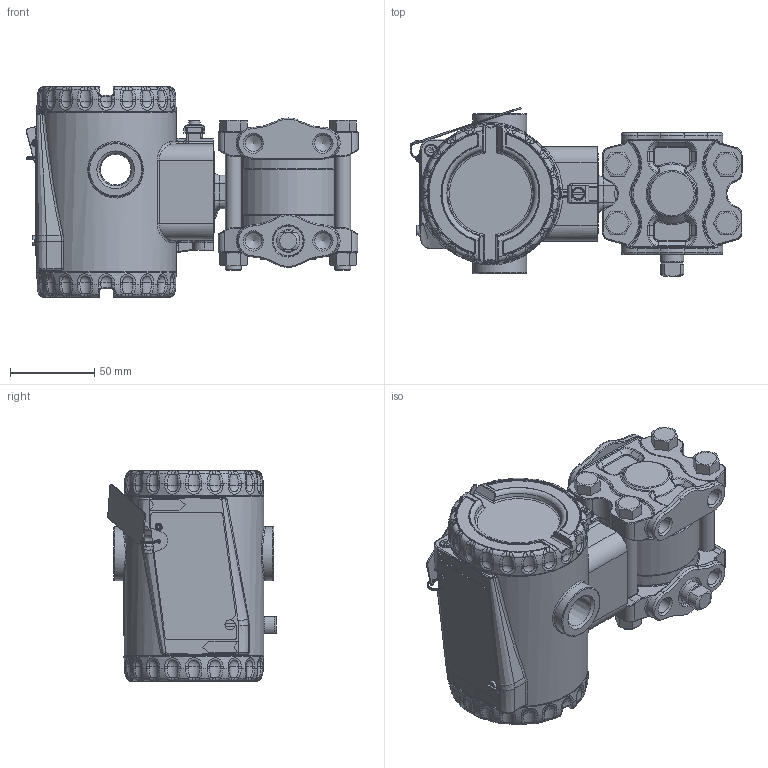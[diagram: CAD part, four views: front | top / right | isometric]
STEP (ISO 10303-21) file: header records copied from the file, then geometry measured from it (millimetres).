
FILE_DESCRIPTION(/* description */ (''),/* implementation_level */ '2;1');
FILE_NAME(/* name */ 'F:\Area\Desenvolvimento_2\Projects\Sensor\projetos\LD400-3d\dimensionais 3D clientes\LD400A5 1-4NPT sem purga.stp',/* time_stamp */ '2023-02-02T10:01:17-03:00',/* author */ ('inventor02'),/* organization */ (''),/* preprocessor_version */ 'ST-DEVELOPER v17',/* originating_system */ 'Autodesk Inventor 2019',/* authorisation */ '');
FILE_SCHEMA (('CONFIG_CONTROL_DESIGN'));
Products named in the file (29): LD400A5 1-4NPT sem purga; Carcaça 400 com tampas e plaqueta sem letras; 101-D-0845-05 carcaça LD400 sem letras; 101-B-3614-03-tampa 400 sem letras; Tampa visor 400 montada sem letras; 101-B-3612-05 tampa visor 400 sem letras; 101-A-6107; oring 2034; 00034775-0; WHW_250; DIN 915 - M6 x 10; Chapa aterramento externo; 201-A-1771-02 inserto terra recartilhado; AS 1969 - ST4,2; ISO 1207 - M4 x 8; ANSI B18.3.1M - M4x0,7 x 8; Subconjunto plaqueta 400; plaqueta 400 em branco; Parafuso da Plaqueta; Rebite da Plaqueta; 096-A-0169-03; 101-A-0502-01; absoluto standard fx5 sem purga; Flange manometrico standard; flange diferencial std sem purga; bujao 1-4NPT; involucro fx5 apos a usinagem final; Paraf. 3-8 x 16 UNC; Porca 3-8 x 16 UNC
Assembly tree (35 placements, depth 4):
  LD400A5 1-4NPT sem purga
    Carcaça 400 com tampas e plaqueta sem letras
      101-D-0845-05 carcaça LD400 sem letras
      101-B-3614-03-tampa 400 sem letras
      Tampa visor 400 montada sem letras
        101-B-3612-05 tampa visor 400 sem letras
        101-A-6107
        oring 2034
        00034775-0
        WHW_250
      DIN 915 - M6 x 10
      Chapa aterramento externo
      201-A-1771-02 inserto terra recartilhado
      AS 1969 - ST4,2
      ISO 1207 - M4 x 8
      ANSI B18.3.1M - M4x0,7 x 8  x2
      Subconjunto plaqueta 400
        plaqueta 400 em branco
        Parafuso da Plaqueta
        Rebite da Plaqueta
        096-A-0169-03
        101-A-0502-01
    absoluto standard fx5 sem purga
      Flange manometrico standard
      flange diferencial std sem purga
      bujao 1-4NPT
      involucro fx5 apos a usinagem final
      Paraf. 3-8 x 16 UNC  x4
      Porca 3-8 x 16 UNC  x4
Bounding box: 197.25 x 100.09 x 125 mm (x, y, z)
Volume: 600027.8 mm3; surface area: 231125.3 mm2
Topology: 31 solids, 31 shells, 2635 faces, 6387 edges, 3799 vertices
Faces by surface type: bspline 667, plane 651, cylinder 609, torus 451, cone 195, sphere 62
Full cylindrical faces by diameter (mm): 2 x2, 2.1 x1, 2.2 x1, 2.459 x3, 2.7 x1, 3 x2, 3.242 x3, 3.571 x1, 4 x4, 4.3 x2, 4.4 x1, 4.917 x1, 5.5 x2, 6 x2, 6.1 x2, 6.2 x1, 7 x2, 7.6 x2, 7.798 x4, 9.525 x4, 9.728 x8, 10.5 x8, 10.719 x2, 13.8 x1, 14 x1, 18.3 x2, 18.5 x2, 32 x2, 32.1 x1, 34.6 x1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
Entity records: 96722 total; most frequent: CARTESIAN_POINT 38468, ORIENTED_EDGE 12262, DIRECTION 11758, EDGE_CURVE 6131, AXIS2_PLACEMENT_3D 5012, VERTEX_POINT 3673, CIRCLE 2888, EDGE_LOOP 2638
